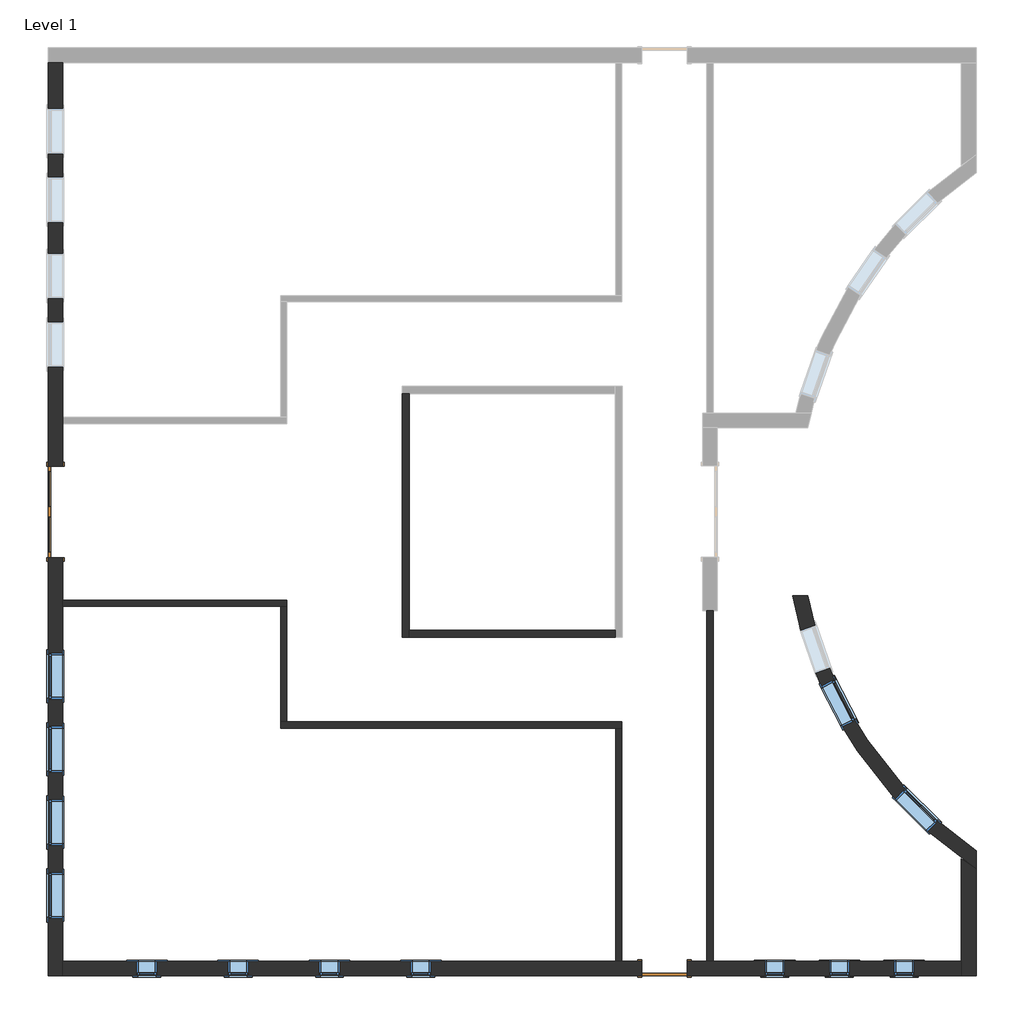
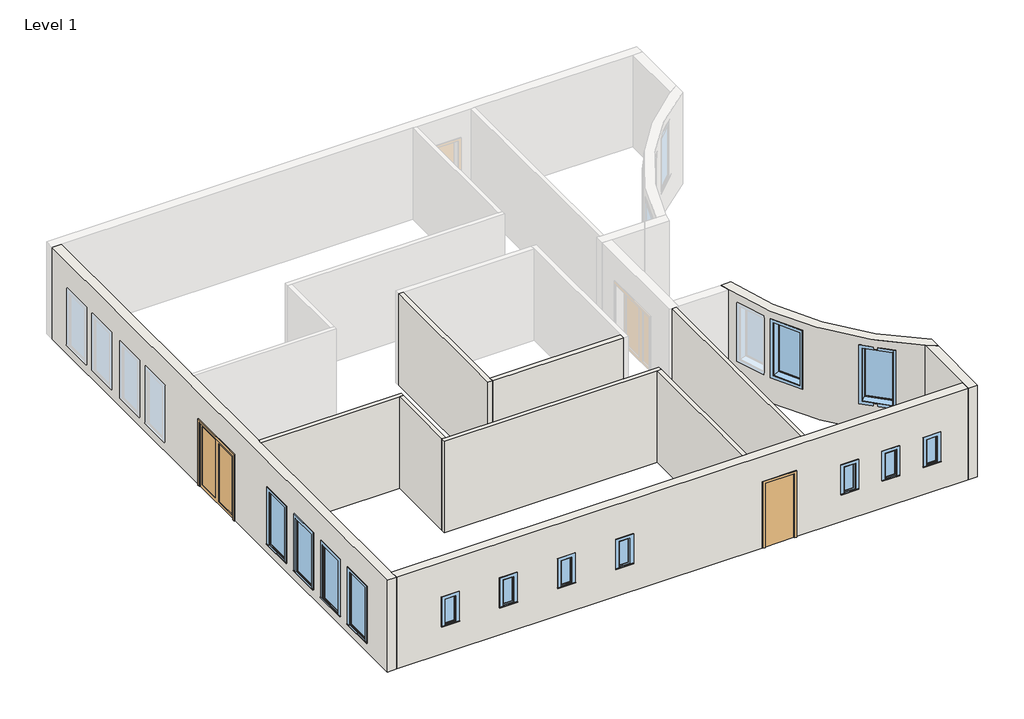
# One storey, part 1 of 2: 13 windows, 11 walls, 2 doors.
"""IFC4 building model written with IfcOpenShell, lengths in millimetres."""

from ifc_helpers import new_model, si_unit, frame, origin, origin_with_axes, place, context, project, spatial, polyline, circle_curve, outline, extrude, faceted_brep, transform, mapped, element, save
from ifc_brep_helpers import plane_surface, cylinder_surface, revolved_surface, advanced_brep
from components import door_e9d87526, door_7b231ec9, fixed_6768491c, fixed_431f5485

model = new_model("IFC4")

# Units and contexts
model_context = context("Model", 3, world=origin())
ifc_project = project(units=[si_unit("LENGTHUNIT", "METRE", prefix="MILLI")], contexts=[model_context])

# Site, building, storey
site = spatial("IfcSite", under=ifc_project)
building = spatial("IfcBuilding", under=site)
storey = spatial("IfcBuildingStorey", under=building, Name="Level 1", Elevation=0.0)

# Doors
placement = place(None, origin())
door_shape = door_e9d87526(model_context)
element("IfcDoor", 1, ObjectType="Double-Glass 1 : 72\" x 84\"", at=placement, inside=storey, context=model_context, shape_type="MappedRepresentation", body=[
    mapped(door_shape, transform((-10745.5063726, -435.5710073, 0.0), x_axis=(0.0, 1.0, 0.0), y_axis=(-1.0, 0.0, 0.0), z_axis=(0.0, 0.0, 1.0))),
])
door_2_shape = door_7b231ec9(model_context)
element("IfcDoor", 2, ObjectType="Sgl Flush : 36\" x 84\"", at=placement, inside=storey, context=model_context, shape_type="MappedRepresentation", body=[
    mapped(door_2_shape, transform((1444.1123774, -9579.5710073, 0.0), x_axis=(-1.0, 0.0, 0.0), y_axis=(0.0, -1.0, 0.0), z_axis=(0.0, 0.0, 1.0))),
])

# Walls
element("IfcWall", 3, ObjectType="Generic - 12\" Masonry", at=placement, inside=storey, context=model_context, shape_type="Brep", body=[
    faceted_brep([(-10600.2501226, 478.8289927, 2133.6), (-10600.2501226, 478.8289927, 0.0), (-10600.2501226, 1331.3164927, 0.0), (-10600.2501226, 1455.1414927, 0.0), (-10600.2501226, 8560.7914927, 0.0), (-10600.2501226, 8560.7914927, 3048.0), (-10600.2501226, 1455.1414927, 3048.0), (-10600.2501226, 1331.3164927, 3048.0), (-10600.2501226, -2202.4585073, 3048.0), (-10600.2501226, -2326.2835073, 3048.0), (-10600.2501226, -9431.9335073, 3048.0), (-10600.2501226, -9727.2085073, 3048.0), (-10600.2501226, -9727.2085073, 0.0), (-10600.2501226, -9431.9335073, 0.0), (-10600.2501226, -2326.2835073, 0.0), (-10600.2501226, -2202.4585073, 0.0), (-10600.2501226, -1349.9710073, 0.0), (-10600.2501226, -1349.9710073, 2133.6), (-10600.2501226, 6727.2289927, 2133.6), (-10600.2501226, 7641.6289927, 2133.6), (-10600.2501226, 7641.6289927, 304.8), (-10600.2501226, 6727.2289927, 304.8), (-10600.2501226, 3831.6289927, 2133.6), (-10600.2501226, 4746.0289927, 2133.6), (-10600.2501226, 4746.0289927, 304.8), (-10600.2501226, 3831.6289927, 304.8), (-10600.2501226, 5355.6289927, 2133.6), (-10600.2501226, 6270.0289927, 2133.6), (-10600.2501226, 6270.0289927, 304.8), (-10600.2501226, 5355.6289927, 304.8), (-10600.2501226, 2460.0289927, 2133.6), (-10600.2501226, 3374.4289927, 2133.6), (-10600.2501226, 3374.4289927, 304.8), (-10600.2501226, 2460.0289927, 304.8), (-10600.2501226, -7659.3310073, 2133.6), (-10600.2501226, -7659.3310073, 304.8), (-10600.2501226, -8573.7310073, 304.8), (-10600.2501226, -8573.7310073, 2133.6), (-10600.2501226, -4733.2510073, 2133.6), (-10600.2501226, -4733.2510073, 304.8), (-10600.2501226, -5647.6510073, 304.8), (-10600.2501226, -5647.6510073, 2133.6), (-10600.2501226, -6196.2910073, 2133.6), (-10600.2501226, -6196.2910073, 304.8), (-10600.2501226, -7110.6910073, 304.8), (-10600.2501226, -7110.6910073, 2133.6), (-10600.2501226, -3270.2110073, 2133.6), (-10600.2501226, -3270.2110073, 304.8), (-10600.2501226, -4184.6110073, 304.8), (-10600.2501226, -4184.6110073, 2133.6), (-10895.5251226, 8560.7914927, 0.0), (-10895.5251226, 478.8289927, 0.0), (-10895.5251226, 478.8289927, 2133.6), (-10895.5251226, -1349.9710073, 2133.6), (-10895.5251226, -1349.9710073, 0.0), (-10895.5251226, -9727.2085073, 0.0), (-10895.5251226, -9727.2085073, 3048.0), (-10895.5251226, 8560.7914927, 3048.0), (-10895.5251226, 6727.2289927, 2133.6), (-10895.5251226, 6727.2289927, 304.8), (-10895.5251226, 7641.6289927, 304.8), (-10895.5251226, 7641.6289927, 2133.6), (-10895.5251226, 3831.6289927, 2133.6), (-10895.5251226, 3831.6289927, 304.8), (-10895.5251226, 4746.0289927, 304.8), (-10895.5251226, 4746.0289927, 2133.6), (-10895.5251226, 5355.6289927, 2133.6), (-10895.5251226, 5355.6289927, 304.8), (-10895.5251226, 6270.0289927, 304.8), (-10895.5251226, 6270.0289927, 2133.6), (-10895.5251226, 2460.0289927, 2133.6), (-10895.5251226, 2460.0289927, 304.8), (-10895.5251226, 3374.4289927, 304.8), (-10895.5251226, 3374.4289927, 2133.6), (-10895.5251226, -7659.3310073, 2133.6), (-10895.5251226, -8573.7310073, 2133.6), (-10895.5251226, -8573.7310073, 304.8), (-10895.5251226, -7659.3310073, 304.8), (-10895.5251226, -4733.2510073, 2133.6), (-10895.5251226, -5647.6510073, 2133.6), (-10895.5251226, -5647.6510073, 304.8), (-10895.5251226, -4733.2510073, 304.8), (-10895.5251226, -6196.2910073, 2133.6), (-10895.5251226, -7110.6910073, 2133.6), (-10895.5251226, -7110.6910073, 304.8), (-10895.5251226, -6196.2910073, 304.8), (-10895.5251226, -3270.2110073, 2133.6), (-10895.5251226, -4184.6110073, 2133.6), (-10895.5251226, -4184.6110073, 304.8), (-10895.5251226, -3270.2110073, 304.8)], [[[0, 1, 2, 3, 4, 5, 6, 7, 8, 9, 10, 11, 12, 13, 14, 15, 16, 17], [18, 19, 20, 21], [22, 23, 24, 25], [26, 27, 28, 29], [30, 31, 32, 33], [34, 35, 36, 37], [38, 39, 40, 41], [42, 43, 44, 45], [46, 47, 48, 49]], [[50, 51, 52, 53, 54, 55, 56, 57], [58, 59, 60, 61], [62, 63, 64, 65], [66, 67, 68, 69], [70, 71, 72, 73], [74, 75, 76, 77], [78, 79, 80, 81], [82, 83, 84, 85], [86, 87, 88, 89]], [[4, 3, 2, 1, 51, 50]], [[16, 15, 14, 13, 12, 55, 54]], [[11, 10, 9, 8, 7, 6, 5, 57, 56]], [[12, 11, 56, 55]], [[5, 4, 50, 57]], [[52, 51, 1, 0]], [[53, 52, 0, 17]], [[54, 53, 17, 16]], [[59, 58, 18, 21]], [[60, 59, 21, 20]], [[61, 60, 20, 19]], [[58, 61, 19, 18]], [[63, 62, 22, 25]], [[64, 63, 25, 24]], [[65, 64, 24, 23]], [[62, 65, 23, 22]], [[67, 66, 26, 29]], [[68, 67, 29, 28]], [[69, 68, 28, 27]], [[66, 69, 27, 26]], [[71, 70, 30, 33]], [[72, 71, 33, 32]], [[73, 72, 32, 31]], [[70, 73, 31, 30]], [[35, 34, 74, 77]], [[36, 35, 77, 76]], [[37, 36, 76, 75]], [[34, 37, 75, 74]], [[39, 38, 78, 81]], [[40, 39, 81, 80]], [[41, 40, 80, 79]], [[38, 41, 79, 78]], [[43, 42, 82, 85]], [[44, 43, 85, 84]], [[45, 44, 84, 83]], [[42, 45, 83, 82]], [[47, 46, 86, 89]], [[48, 47, 89, 88]], [[49, 48, 88, 87]], [[46, 49, 87, 86]]]),
])
element("IfcWall", 4, ObjectType="Generic - 12\" Masonry", at=placement, inside=storey, context=model_context, shape_type="Brep", body=[
    faceted_brep([(986.9123774, -9431.9335073, 2133.6), (986.9123774, -9431.9335073, 0.0), (591.6248774, -9431.9335073, 0.0), (467.7998774, -9431.9335073, 0.0), (-10600.2501226, -9431.9335073, 0.0), (-10600.2501226, -9431.9335073, 3048.0), (467.7998774, -9431.9335073, 3048.0), (591.6248774, -9431.9335073, 3048.0), (2296.5998774, -9431.9335073, 3048.0), (2420.4248774, -9431.9335073, 3048.0), (7392.4748774, -9431.9335073, 3048.0), (7392.4748774, -9431.9335073, 0.0), (2420.4248774, -9431.9335073, 0.0), (2296.5998774, -9431.9335073, 0.0), (1901.3123774, -9431.9335073, 0.0), (1901.3123774, -9431.9335073, 2133.6), (6041.5123774, -9431.9335073, 1828.8), (6041.5123774, -9431.9335073, 914.4), (6447.9123774, -9431.9335073, 914.4), (6447.9123774, -9431.9335073, 1828.8), (4746.1123774, -9431.9335073, 1828.8), (4746.1123774, -9431.9335073, 914.4), (5152.5123774, -9431.9335073, 914.4), (5152.5123774, -9431.9335073, 1828.8), (3450.7123774, -9431.9335073, 1828.8), (3450.7123774, -9431.9335073, 914.4), (3857.1123774, -9431.9335073, 914.4), (3857.1123774, -9431.9335073, 1828.8), (-3635.8876226, -9431.9335073, 1828.8), (-3635.8876226, -9431.9335073, 914.4), (-3229.4876226, -9431.9335073, 914.4), (-3229.4876226, -9431.9335073, 1828.8), (-5464.6876226, -9431.9335073, 1828.8), (-5464.6876226, -9431.9335073, 914.4), (-5058.2876226, -9431.9335073, 914.4), (-5058.2876226, -9431.9335073, 1828.8), (-7293.4876226, -9431.9335073, 1828.8), (-7293.4876226, -9431.9335073, 914.4), (-6887.0876226, -9431.9335073, 914.4), (-6887.0876226, -9431.9335073, 1828.8), (-9122.2876226, -9431.9335073, 1828.8), (-9122.2876226, -9431.9335073, 914.4), (-8715.8876226, -9431.9335073, 914.4), (-8715.8876226, -9431.9335073, 1828.8), (-10600.2501226, -9727.2085073, 0.0), (986.9123774, -9727.2085073, 0.0), (986.9123774, -9727.2085073, 2133.6), (1901.3123774, -9727.2085073, 2133.6), (1901.3123774, -9727.2085073, 0.0), (7392.4748774, -9727.2085073, 0.0), (7392.4748774, -9727.2085073, 3048.0), (-10600.2501226, -9727.2085073, 3048.0), (6041.5123774, -9727.2085073, 1828.8), (6447.9123774, -9727.2085073, 1828.8), (6447.9123774, -9727.2085073, 914.4), (6041.5123774, -9727.2085073, 914.4), (4746.1123774, -9727.2085073, 1828.8), (5152.5123774, -9727.2085073, 1828.8), (5152.5123774, -9727.2085073, 914.4), (4746.1123774, -9727.2085073, 914.4), (3450.7123774, -9727.2085073, 1828.8), (3857.1123774, -9727.2085073, 1828.8), (3857.1123774, -9727.2085073, 914.4), (3450.7123774, -9727.2085073, 914.4), (-3635.8876226, -9727.2085073, 1828.8), (-3229.4876226, -9727.2085073, 1828.8), (-3229.4876226, -9727.2085073, 914.4), (-3635.8876226, -9727.2085073, 914.4), (-5464.6876226, -9727.2085073, 1828.8), (-5058.2876226, -9727.2085073, 1828.8), (-5058.2876226, -9727.2085073, 914.4), (-5464.6876226, -9727.2085073, 914.4), (-7293.4876226, -9727.2085073, 1828.8), (-6887.0876226, -9727.2085073, 1828.8), (-6887.0876226, -9727.2085073, 914.4), (-7293.4876226, -9727.2085073, 914.4), (-9122.2876226, -9727.2085073, 1828.8), (-8715.8876226, -9727.2085073, 1828.8), (-8715.8876226, -9727.2085073, 914.4), (-9122.2876226, -9727.2085073, 914.4)], [[[0, 1, 2, 3, 4, 5, 6, 7, 8, 9, 10, 11, 12, 13, 14, 15], [16, 17, 18, 19], [20, 21, 22, 23], [24, 25, 26, 27], [28, 29, 30, 31], [32, 33, 34, 35], [36, 37, 38, 39], [40, 41, 42, 43]], [[44, 45, 46, 47, 48, 49, 50, 51], [52, 53, 54, 55], [56, 57, 58, 59], [60, 61, 62, 63], [64, 65, 66, 67], [68, 69, 70, 71], [72, 73, 74, 75], [76, 77, 78, 79]], [[4, 3, 2, 1, 45, 44]], [[14, 13, 12, 11, 49, 48]], [[10, 9, 8, 7, 6, 5, 51, 50]], [[5, 4, 44, 51]], [[11, 10, 50, 49]], [[46, 45, 1, 0]], [[47, 46, 0, 15]], [[48, 47, 15, 14]], [[17, 16, 52, 55]], [[18, 17, 55, 54]], [[19, 18, 54, 53]], [[16, 19, 53, 52]], [[21, 20, 56, 59]], [[22, 21, 59, 58]], [[23, 22, 58, 57]], [[20, 23, 57, 56]], [[25, 24, 60, 63]], [[26, 25, 63, 62]], [[27, 26, 62, 61]], [[24, 27, 61, 60]], [[29, 28, 64, 67]], [[30, 29, 67, 66]], [[31, 30, 66, 65]], [[28, 31, 65, 64]], [[33, 32, 68, 71]], [[34, 33, 71, 70]], [[35, 34, 70, 69]], [[32, 35, 69, 68]], [[37, 36, 72, 75]], [[38, 37, 75, 74]], [[39, 38, 74, 73]], [[36, 39, 73, 72]], [[41, 40, 76, 79]], [[42, 41, 79, 78]], [[43, 42, 78, 77]], [[40, 43, 77, 76]]]),
])
element("IfcWall", 5, ObjectType="Generic - 12\" Masonry", at=placement, inside=storey, context=model_context, shape_type="AdvancedBrep", body=[
    advanced_brep(
    [(7392.4748774, -7378.5850292, 0.0), (7392.4748774, -9431.9335073, 0.0), (7392.4748774, -9727.2085073, 0.0), (7392.4748774, -9727.2085073, 3048.0), (7392.4748774, -9431.9335073, 3048.0), (7392.4748774, -7378.5850292, 3048.0), (7687.7498774, -7582.8871074, 0.0), (7687.7498774, -7582.8871074, 3048.0), (7687.7498774, -9727.2085073, 3048.0), (7687.7498774, -9727.2085073, 0.0)],
    [
        (0, 1),
        (1, 2),
        (2, 3),
        (3, 4),
        (4, 5),
        (5, 0),
        (6, 7),
        (7, 8),
        (8, 9),
        (9, 6),
        (0, 6, circle_curve(frame((12414.6932373, -435.5710073, 0.0), z_axis=(0.0, 0.0, 1.0), x_axis=(1.0, 0.0, 0.0)), 8569.0210037)),
        (9, 2),
        (3, 8),
        (7, 5, circle_curve(frame((12414.6932373, -435.5710073, 3048.0), z_axis=(0.0, 0.0, -1.0), x_axis=(1.0, 0.0, 0.0)), 8569.0210037)),
    ],
    [
        plane_surface(frame((7392.4748774, 8846.8596294, 0.0), z_axis=(-1.0, 0.0, 0.0), x_axis=(0.0, -1.0, 0.0))),
        plane_surface(frame((7687.7498774, 8846.8596294, 0.0), z_axis=(1.0, 0.0, 0.0), x_axis=(0.0, 1.0, 0.0))),
        plane_surface(frame((7392.4748774, -7302.7510368, 0.0), z_axis=(0.0, 0.0, -1.0), x_axis=(1.0, 0.0, 0.0))),
        plane_surface(frame((7392.4748774, -9579.5710073, 3048.0), z_axis=(0.0, 0.0, 1.0), x_axis=(1.0, 0.0, 0.0))),
        plane_surface(frame((7540.1123774, -9727.2085073, 0.0), z_axis=(0.0, -1.0, 0.0), x_axis=(1.0, 0.0, 0.0))),
        revolved_surface(polyline([(20983.714241, -435.5710073, 3048.0), (20983.714241, -435.5710073, 0.0)]), (12414.6932373, -435.5710073, 0.0), (0.0, 0.0, 1.0)),
    ],
    [
        (0, [[1, 2, 3, 4, 5, 6]]),
        (1, [[7, 8, 9, 10]]),
        (2, [[-2, -1, 11, -10, 12]]),
        (3, [[-5, -4, 13, -8, 14]]),
        (4, [[-3, -12, -9, -13]]),
        (5, [[-6, -14, -7, -11]]),
    ],
),
])
element("IfcWall", 6, ObjectType="Generic - 12\" Masonry", at=placement, inside=storey, context=model_context, shape_type="AdvancedBrep", body=[
    advanced_brep(
    [(7687.7498774, -7226.0702089, 3048.0), (4313.5472948, -2116.7335073, 3048.0), (4012.2047005, -2116.7335073, 3048.0), (4076.7199892, -2412.0129973, 3048.0), (7392.4783745, -7378.5874332, 3048.0), (7687.7498774, -7582.8871074, 3048.0), (7687.7498774, -7226.0702089, 0.0), (7687.7498774, -7582.8871074, 0.0), (7392.4783745, -7378.5874332, 0.0), (4076.7199892, -2412.0129973, 0.0), (4012.2047005, -2116.7335073, 0.0), (4313.5472948, -2116.7335073, 0.0), (6922.7409562, -6623.7317256, 2743.2), (6273.4213207, -5979.9061506, 2743.2), (6273.4213207, -5979.9061506, 914.4), (6922.7409562, -6623.7317256, 914.4), (5269.4263488, -4606.9058088, 2743.2), (4852.7592551, -3792.9550161, 2743.2), (4852.7592551, -3792.9550161, 914.4), (5269.4263488, -4606.9058088, 914.4), (4758.4259955, -3571.8817152, 2743.2), (4459.0939332, -2707.8633842, 2743.2), (4459.0939332, -2707.8633842, 914.4), (4758.4259955, -3571.8817152, 914.4), (6714.5317839, -6833.7176427, 2743.2), (6714.5317839, -6833.7176427, 914.4), (6065.2121485, -6189.8920676, 914.4), (6065.2121485, -6189.8920676, 2743.2), (5006.1997431, -4741.6533461, 2743.2), (5006.1997431, -4741.6533461, 914.4), (4589.5326494, -3927.7025534, 914.4), (4589.5326494, -3927.7025534, 2743.2), (4479.0078605, -3668.6838358, 2743.2), (4479.0078605, -3668.6838358, 914.4), (4179.6757981, -2804.6655047, 914.4), (4179.6757981, -2804.6655047, 2743.2)],
    [
        (0, 1, circle_curve(frame((12414.6932373, -435.5710073, 3048.0), z_axis=(0.0, 0.0, -1.0), x_axis=(1.0, 0.0, 0.0)), 8273.7460037)),
        (1, 2),
        (2, 3, circle_curve(frame((12414.6932373, -435.5710073, 3048.0), z_axis=(0.0, 0.0, 1.0), x_axis=(1.0, 0.0, 0.0)), 8569.0210037)),
        (3, 4, circle_curve(frame((12414.6932373, -435.5710073, 3048.0), z_axis=(0.0, 0.0, 1.0), x_axis=(1.0, 0.0, 0.0)), 8569.0209957)),
        (4, 5, circle_curve(frame((12414.6932373, -435.5710073, 3048.0), z_axis=(0.0, 0.0, 1.0), x_axis=(1.0, 0.0, 0.0)), 8569.0209019)),
        (5, 0),
        (6, 7),
        (7, 8, circle_curve(frame((12414.6932373, -435.5710073, 0.0), z_axis=(0.0, 0.0, -1.0), x_axis=(1.0, 0.0, 0.0)), 8569.0210037)),
        (8, 9, circle_curve(frame((12414.6932373, -435.5710073, 0.0), z_axis=(0.0, 0.0, -1.0), x_axis=(1.0, 0.0, 0.0)), 8569.0209019)),
        (9, 10, circle_curve(frame((12414.6932373, -435.5710073, 0.0), z_axis=(0.0, 0.0, -1.0), x_axis=(1.0, 0.0, 0.0)), 8569.0209957)),
        (10, 11),
        (11, 6, circle_curve(frame((12414.6932373, -435.5710073, 0.0), z_axis=(0.0, 0.0, 1.0), x_axis=(1.0, 0.0, 0.0)), 8273.7460037)),
        (0, 6),
        (11, 1),
        (12, 13, circle_curve(frame((12414.6932373, -435.5710073, 2743.2), z_axis=(0.0, 0.0, -1.0), x_axis=(1.0, 0.0, 0.0)), 8273.7460037)),
        (13, 14),
        (14, 15, circle_curve(frame((12414.6932373, -435.5710073, 914.4), z_axis=(0.0, 0.0, 1.0), x_axis=(1.0, 0.0, 0.0)), 8273.7460037)),
        (15, 12),
        (16, 17, circle_curve(frame((12414.6932373, -435.5710073, 2743.2), z_axis=(0.0, 0.0, -1.0), x_axis=(1.0, 0.0, 0.0)), 8273.7460037)),
        (17, 18),
        (18, 19, circle_curve(frame((12414.6932373, -435.5710073, 914.4), z_axis=(0.0, 0.0, 1.0), x_axis=(1.0, 0.0, 0.0)), 8273.7460037)),
        (19, 16),
        (20, 21, circle_curve(frame((12414.6932373, -435.5710073, 2743.2), z_axis=(0.0, 0.0, -1.0), x_axis=(1.0, 0.0, 0.0)), 8273.7460037)),
        (21, 22),
        (22, 23, circle_curve(frame((12414.6932373, -435.5710073, 914.4), z_axis=(0.0, 0.0, 1.0), x_axis=(1.0, 0.0, 0.0)), 8273.7460037)),
        (23, 20),
        (2, 10),
        (7, 5),
        (24, 25),
        (25, 26, circle_curve(frame((12414.6932373, -435.5710073, 914.4), z_axis=(0.0, 0.0, -1.0), x_axis=(1.0, 0.0, 0.0)), 8569.0210037)),
        (26, 27),
        (27, 24, circle_curve(frame((12414.6932373, -435.5710073, 2743.2), z_axis=(0.0, 0.0, 1.0), x_axis=(1.0, 0.0, 0.0)), 8569.0210037)),
        (28, 29),
        (29, 30, circle_curve(frame((12414.6932373, -435.5710073, 914.4), z_axis=(0.0, 0.0, -1.0), x_axis=(1.0, 0.0, 0.0)), 8569.0210037)),
        (30, 31),
        (31, 28, circle_curve(frame((12414.6932373, -435.5710073, 2743.2), z_axis=(0.0, 0.0, 1.0), x_axis=(1.0, 0.0, 0.0)), 8569.0210037)),
        (32, 33),
        (33, 34, circle_curve(frame((12414.6932373, -435.5710073, 914.4), z_axis=(0.0, 0.0, -1.0), x_axis=(1.0, 0.0, 0.0)), 8569.0210037)),
        (34, 35),
        (35, 32, circle_curve(frame((12414.6932373, -435.5710073, 2743.2), z_axis=(0.0, 0.0, 1.0), x_axis=(1.0, 0.0, 0.0)), 8569.0210037)),
        (24, 12),
        (15, 25),
        (14, 26),
        (13, 27),
        (28, 16),
        (19, 29),
        (18, 30),
        (17, 31),
        (32, 20),
        (23, 33),
        (22, 34),
        (21, 35),
    ],
    [
        plane_surface(frame((20688.4392409, -435.5710073, 3048.0), z_axis=(0.0, 0.0, 1.0), x_axis=(0.0, -1.0, 0.0))),
        plane_surface(frame((20688.4392409, -435.5710073, 0.0), z_axis=(0.0, 0.0, -1.0), x_axis=(0.0, 1.0, 0.0))),
        revolved_surface(polyline([(20688.439241, -435.5710073, 0.0), (20688.439241, -435.5710073, 3048.0)]), (12414.6932373, -435.5710073, 0.0), (0.0, 0.0, -1.0)),
        cylinder_surface(frame((12414.6932373, -435.5710073, 0.0), z_axis=(0.0, 0.0, 1.0), x_axis=(1.0, 0.0, 0.0)), 8569.0210037),
        plane_surface(frame((7687.7498774, 8846.8596294, 0.0), z_axis=(1.0, 0.0, 0.0), x_axis=(0.0, 1.0, 0.0))),
        plane_surface(frame((3577.7123774, -2116.7335073, 0.0), z_axis=(0.0, 1.0, 0.0), x_axis=(-1.0, 0.0, 0.0))),
        plane_surface(frame((6714.5317839, -6833.7176427, 2743.2), z_axis=(-0.7101045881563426, 0.7040962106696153, 0.0), x_axis=(0.7040962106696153, 0.7101045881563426, 0.0))),
        plane_surface(frame((6714.5317839, -6833.7176427, 914.4), z_axis=(0.0, 0.0, 1.0000000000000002), x_axis=(0.7040962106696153, 0.7101045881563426, 0.0))),
        plane_surface(frame((6065.2121485, -6189.8920676, 914.4), z_axis=(0.7101045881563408, -0.7040962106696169, 0.0), x_axis=(0.7040962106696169, 0.7101045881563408, 0.0))),
        plane_surface(frame((6065.2121485, -6189.8920676, 2743.2), z_axis=(0.0, 0.0, -1.0), x_axis=(0.7040962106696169, 0.7101045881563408, 0.0))),
        plane_surface(frame((5006.1997431, -4741.6533461, 2743.2), z_axis=(-0.45567267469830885, 0.8901474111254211, 0.0), x_axis=(0.8901474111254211, 0.45567267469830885, 0.0))),
        plane_surface(frame((5006.1997431, -4741.6533461, 914.4), z_axis=(0.0, 0.0, 1.0000000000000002), x_axis=(0.8901474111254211, 0.45567267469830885, 0.0))),
        plane_surface(frame((4589.5326494, -3927.7025534, 914.4), z_axis=(0.45567267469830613, -0.8901474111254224, 0.0), x_axis=(0.8901474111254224, 0.45567267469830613, 0.0))),
        plane_surface(frame((4589.5326494, -3927.7025534, 2743.2), z_axis=(0.0, 0.0, -1.0), x_axis=(0.8901474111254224, 0.45567267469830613, 0.0))),
        plane_surface(frame((4479.0078605, -3668.6838358, 2743.2), z_axis=(-0.3273535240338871, 0.9449019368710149, 0.0), x_axis=(0.9449019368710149, 0.3273535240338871, 0.0))),
        plane_surface(frame((4479.0078605, -3668.6838358, 914.4), z_axis=(0.0, 0.0, 1.0), x_axis=(0.9449019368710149, 0.3273535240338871, 0.0))),
        plane_surface(frame((4179.6757981, -2804.6655047, 914.4), z_axis=(0.327353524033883, -0.9449019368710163, 0.0), x_axis=(0.9449019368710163, 0.327353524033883, 0.0))),
        plane_surface(frame((4179.6757981, -2804.6655047, 2743.2), z_axis=(0.0, 0.0, -1.0000000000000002), x_axis=(0.9449019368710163, 0.327353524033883, 0.0))),
    ],
    [
        (0, [[1, 2, 3, 4, 5, 6]]),
        (1, [[7, 8, 9, 10, 11, 12]]),
        (2, [[-1, 13, -12, 14], [15, 16, 17, 18], [19, 20, 21, 22], [23, 24, 25, 26]]),
        (3, [[-5, -4, -3, 27, -10, -9, -8, 28], [29, 30, 31, 32], [33, 34, 35, 36], [37, 38, 39, 40]]),
        (4, [[-6, -28, -7, -13]]),
        (5, [[-2, -14, -11, -27]]),
        (6, [[-29, 41, -18, 42]]),
        (7, [[-30, -42, -17, 43]]),
        (8, [[-31, -43, -16, 44]]),
        (9, [[-32, -44, -15, -41]]),
        (10, [[-33, 45, -22, 46]]),
        (11, [[-34, -46, -21, 47]]),
        (12, [[-35, -47, -20, 48]]),
        (13, [[-36, -48, -19, -45]]),
        (14, [[-37, 49, -26, 50]]),
        (15, [[-38, -50, -25, 51]]),
        (16, [[-39, -51, -24, 52]]),
        (17, [[-40, -52, -23, -49]]),
    ],
),
])
element("IfcWall", 7, ObjectType="Generic - 6\" Masonry", at=placement, inside=storey, context=model_context, shape_type="Brep", body=[
    faceted_brep([(-3666.0501226, -2945.4085073, 0.0), (-3666.0501226, -2802.5335073, 0.0), (-3666.0501226, 1931.3914927, 0.0), (-3666.0501226, 1931.3914927, 3048.0), (-3666.0501226, -2802.5335073, 3048.0), (-3666.0501226, -2945.4085073, 3048.0), (-3808.9251226, -2945.4085073, 0.0), (-3808.9251226, -2945.4085073, 3048.0), (-3808.9251226, 1931.3914927, 3048.0), (-3808.9251226, 1931.3914927, 0.0)], [[[0, 1, 2, 3, 4, 5]], [[6, 7, 8, 9]], [[2, 1, 0, 6, 9]], [[5, 4, 3, 8, 7]], [[0, 5, 7, 6]], [[3, 2, 9, 8]]]),
])
element("IfcWall", 8, ObjectType="Generic - 6\" Masonry", at=placement, inside=storey, context=model_context, shape_type="SweptSolid", body=[
    extrude(outline(polyline([(-3666.0501226, -2802.5335073), (458.2748774, -2802.5335073), (458.2748774, -2945.4085073), (-3666.0501226, -2945.4085073), (-3666.0501226, -2802.5335073)])), origin_with_axes(), (0.0, 0.0, 1.0), 3048.0),
])
element("IfcWall", 9, ObjectType="Interior - 4 7/8\" Partition (1-hr)", at=placement, inside=storey, context=model_context, shape_type="Brep", body=[
    faceted_brep([(-10600.2501226, -2326.2835073, 0.0), (-6237.8001226, -2326.2835073, 0.0), (-6113.9751226, -2326.2835073, 0.0), (-6113.9751226, -2326.2835073, 3048.0), (-6237.8001226, -2326.2835073, 3048.0), (-10600.2501226, -2326.2835073, 3048.0), (-10600.2501226, -2202.4585073, 0.0), (-10600.2501226, -2202.4585073, 3048.0), (-6113.9751226, -2202.4585073, 3048.0), (-6113.9751226, -2202.4585073, 0.0)], [[[0, 1, 2, 3, 4, 5]], [[6, 7, 8, 9]], [[2, 1, 0, 6, 9]], [[5, 4, 3, 8, 7]], [[3, 2, 9, 8]], [[0, 5, 7, 6]]]),
])
element("IfcWall", 10, ObjectType="Interior - 4 7/8\" Partition (1-hr)", at=placement, inside=storey, context=model_context, shape_type="Brep", body=[
    faceted_brep([(-6237.8001226, -4764.6835073, 0.0), (467.7998774, -4764.6835073, 0.0), (591.6248774, -4764.6835073, 0.0), (591.6248774, -4764.6835073, 3048.0), (467.7998774, -4764.6835073, 3048.0), (-6237.8001226, -4764.6835073, 3048.0), (-6237.8001226, -4640.8585073, 0.0), (-6237.8001226, -4640.8585073, 3048.0), (-6113.9751226, -4640.8585073, 3048.0), (591.6248774, -4640.8585073, 3048.0), (591.6248774, -4640.8585073, 0.0), (-6113.9751226, -4640.8585073, 0.0)], [[[0, 1, 2, 3, 4, 5]], [[6, 7, 8, 9, 10, 11]], [[2, 1, 0, 6, 11, 10]], [[5, 4, 3, 9, 8, 7]], [[3, 2, 10, 9]], [[0, 5, 7, 6]]]),
])
element("IfcWall", 11, ObjectType="Interior - 4 7/8\" Partition (1-hr)", at=placement, inside=storey, context=model_context, shape_type="SweptSolid", body=[
    extrude(outline(polyline([(467.7998774, -9431.9335073), (467.7998774, -4764.6835073), (591.6248774, -4764.6835073), (591.6248774, -9431.9335073), (467.7998774, -9431.9335073)])), origin_with_axes(), (0.0, 0.0, 1.0), 3048.0),
])
element("IfcWall", 12, ObjectType="Interior - 4 7/8\" Partition (1-hr)", at=placement, inside=storey, context=model_context, shape_type="SweptSolid", body=[
    extrude(outline(polyline([(-6113.9751226, -2326.2835073), (-6113.9751226, -4640.8585073), (-6237.8001226, -4640.8585073), (-6237.8001226, -2326.2835073), (-6113.9751226, -2326.2835073)])), origin_with_axes(), (0.0, 0.0, 1.0), 3048.0),
])
element("IfcWall", 13, ObjectType="Interior - 4 7/8\" Partition (1-hr)", at=placement, inside=storey, context=model_context, shape_type="SweptSolid", body=[
    extrude(outline(polyline([(2296.5998774, -9431.9335073), (2296.5998774, -2412.0085073), (2420.4248774, -2412.0085073), (2420.4248774, -9431.9335073), (2296.5998774, -9431.9335073)])), origin_with_axes(), (0.0, 0.0, 1.0), 3048.0),
])

# Windows
fixed_shape = fixed_6768491c(model_context)
element("IfcWindow", 14, ObjectType="Fixed : 36\"w x 72\"h", at=placement, inside=storey, context=model_context, shape_type="MappedRepresentation", body=[
    mapped(fixed_shape, transform((-10747.8876226, -3689.3110073, 0.0), x_axis=(0.0, 1.0, 0.0), y_axis=(-1.0, 0.0, 0.0), z_axis=(0.0, 0.0, 1.0))),
])
element("IfcWindow", 15, ObjectType="Fixed : 36\"w x 72\"h", at=placement, inside=storey, context=model_context, shape_type="MappedRepresentation", body=[
    mapped(fixed_shape, transform((-10747.8876226, -6615.3910073, 0.0), x_axis=(0.0, 1.0, 0.0), y_axis=(-1.0, 0.0, 0.0), z_axis=(0.0, 0.0, 1.0))),
])
element("IfcWindow", 16, ObjectType="Fixed : 36\"w x 72\"h", at=placement, inside=storey, context=model_context, shape_type="MappedRepresentation", body=[
    mapped(fixed_shape, transform((-10747.8876226, -5152.3510073, 0.0), x_axis=(0.0, 1.0, 0.0), y_axis=(-1.0, 0.0, 0.0), z_axis=(0.0, 0.0, 1.0))),
])
element("IfcWindow", 17, ObjectType="Fixed : 36\"w x 72\"h", at=placement, inside=storey, context=model_context, shape_type="MappedRepresentation", body=[
    mapped(fixed_shape, transform((-10747.8876226, -8078.4310073, 0.0), x_axis=(0.0, 1.0, 0.0), y_axis=(-1.0, 0.0, 0.0), z_axis=(0.0, 0.0, 1.0))),
])
element("IfcWindow", 18, ObjectType="Fixed : 36\"w x 72\"h", at=placement, inside=storey, context=model_context, shape_type="MappedRepresentation", body=[
    mapped(fixed_shape, transform((4947.0347925, -4301.1194033, 609.6), x_axis=(0.4556726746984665, -0.8901474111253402, 0.0), y_axis=(0.8901474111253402, 0.4556726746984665, 0.0), z_axis=(0.0, 0.0, 1.0))),
])
element("IfcWindow", 19, ObjectType="Fixed : 36\"w x 72\"h", at=placement, inside=storey, context=model_context, shape_type="MappedRepresentation", body=[
    mapped(fixed_shape, transform((6521.185119, -6433.4830698, 609.6), x_axis=(0.7101045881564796, -0.7040962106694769, 0.0), y_axis=(0.7040962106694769, 0.7101045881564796, 0.0), z_axis=(0.0, 0.0, 1.0))),
])
fixed_2_shape = fixed_431f5485(model_context)
element("IfcWindow", 20, ObjectType="Fixed : 16\"w x 24\"h", at=placement, inside=storey, context=model_context, shape_type="MappedRepresentation", body=[
    mapped(fixed_2_shape, transform((-8957.1876226, -9579.5710073, 0.0), x_axis=(-1.0, 0.0, 0.0), y_axis=(0.0, -1.0, 0.0), z_axis=(0.0, 0.0, 1.0))),
])
element("IfcWindow", 21, ObjectType="Fixed : 16\"w x 24\"h", at=placement, inside=storey, context=model_context, shape_type="MappedRepresentation", body=[
    mapped(fixed_2_shape, transform((-7128.3876226, -9579.5710073, 0.0), x_axis=(-1.0, 0.0, 0.0), y_axis=(0.0, -1.0, 0.0), z_axis=(0.0, 0.0, 1.0))),
])
element("IfcWindow", 22, ObjectType="Fixed : 16\"w x 24\"h", at=placement, inside=storey, context=model_context, shape_type="MappedRepresentation", body=[
    mapped(fixed_2_shape, transform((-5299.5876226, -9579.5710073, 0.0), x_axis=(-1.0, 0.0, 0.0), y_axis=(0.0, -1.0, 0.0), z_axis=(0.0, 0.0, 1.0))),
])
element("IfcWindow", 23, ObjectType="Fixed : 16\"w x 24\"h", at=placement, inside=storey, context=model_context, shape_type="MappedRepresentation", body=[
    mapped(fixed_2_shape, transform((-3470.7876226, -9579.5710073, 0.0), x_axis=(-1.0, 0.0, 0.0), y_axis=(0.0, -1.0, 0.0), z_axis=(0.0, 0.0, 1.0))),
])
element("IfcWindow", 24, ObjectType="Fixed : 16\"w x 24\"h", at=placement, inside=storey, context=model_context, shape_type="MappedRepresentation", body=[
    mapped(fixed_2_shape, transform((3615.8123774, -9579.5710073, 0.0), x_axis=(-1.0, 0.0, 0.0), y_axis=(0.0, -1.0, 0.0), z_axis=(0.0, 0.0, 1.0))),
])
element("IfcWindow", 25, ObjectType="Fixed : 16\"w x 24\"h", at=placement, inside=storey, context=model_context, shape_type="MappedRepresentation", body=[
    mapped(fixed_2_shape, transform((4911.2123774, -9579.5710073, 0.0), x_axis=(-1.0, 0.0, 0.0), y_axis=(0.0, -1.0, 0.0), z_axis=(0.0, 0.0, 1.0))),
])
element("IfcWindow", 26, ObjectType="Fixed : 16\"w x 24\"h", at=placement, inside=storey, context=model_context, shape_type="MappedRepresentation", body=[
    mapped(fixed_2_shape, transform((6206.6123774, -9579.5710073, 0.0), x_axis=(-1.0, 0.0, 0.0), y_axis=(0.0, -1.0, 0.0), z_axis=(0.0, 0.0, 1.0))),
])

save(model, "model.ifc")
